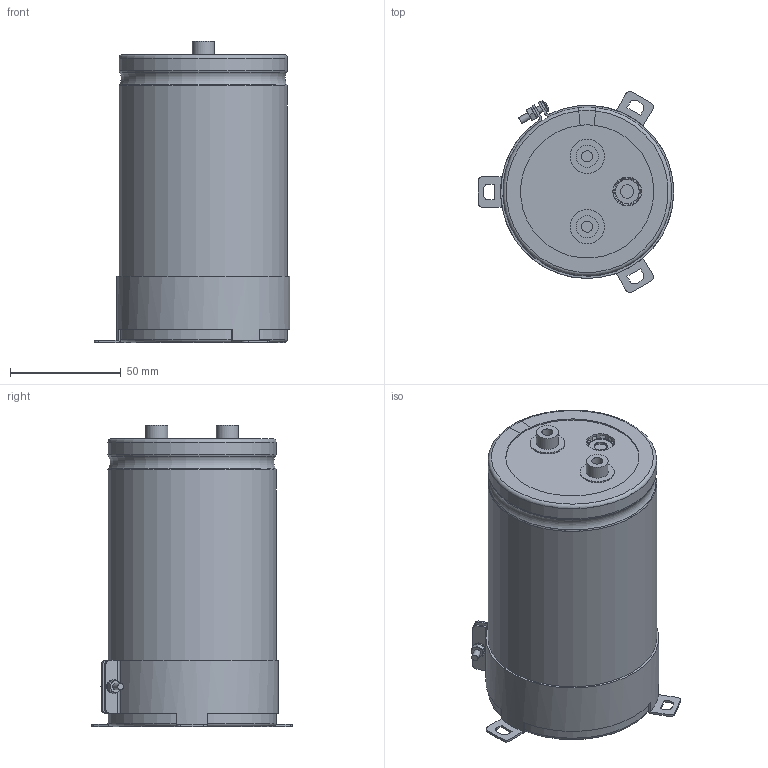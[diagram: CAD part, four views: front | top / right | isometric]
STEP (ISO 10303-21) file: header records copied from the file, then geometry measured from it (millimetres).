
FILE_DESCRIPTION(/* description */ (''),/* implementation_level */ '2;1');
FILE_NAME(/* name */ '76.2x130_Screw.stp',/* time_stamp */ '2017-09-17T13:28:22+09:00',/* author */ (''),/* organization */ (''),/* preprocessor_version */ 'ST-DEVELOPER v16',/* originating_system */ 'SIEMENS PLM Software NX 11.0',/* authorisation */ '');
FILE_SCHEMA (('AUTOMOTIVE_DESIGN { 1 0 10303 214 3 1 1 1 }'));
Length unit declared in the file: millimetre
Products named in the file (1): 76.2x130_Screw
Bounding box: 88.3 x 90.75 x 136 mm (x, y, z)
Volume: 595234.4 mm3; surface area: 123393.9 mm2
Topology: 9 solids, 9 shells, 259 faces, 642 edges, 413 vertices
Faces by surface type: plane 112, cylinder 66, torus 49, cone 31, sphere 1
Full cylindrical faces by diameter (mm): 3 x5, 5 x2, 5.5 x2, 6 x4, 8 x1, 10 x2, 13 x2, 15.5 x2, 75 x2
Entity records: 8534 total; most frequent: CARTESIAN_POINT 2182, DIRECTION 1296, ORIENTED_EDGE 1214, EDGE_CURVE 607, AXIS2_PLACEMENT_3D 541, VERTEX_POINT 408, EDGE_LOOP 317, CIRCLE 281
